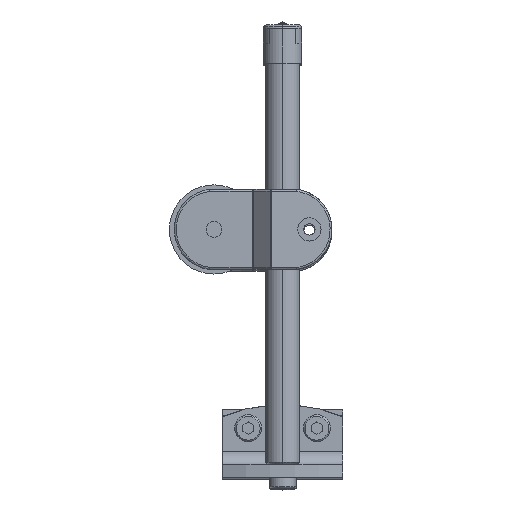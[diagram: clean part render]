
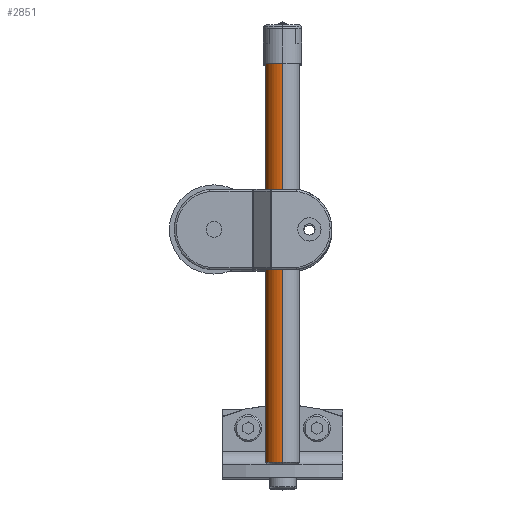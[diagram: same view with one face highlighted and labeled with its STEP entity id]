
A CAD part, top view. The second image highlights one B-rep face of the part: STEP entity #2851.
In plain terms, the highlighted cylindrical face has radius 6.35 mm (diameter 12.7 mm), a partial arc.
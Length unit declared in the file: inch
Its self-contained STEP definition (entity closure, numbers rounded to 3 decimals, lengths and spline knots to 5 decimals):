
#960=CARTESIAN_POINT('',(0.,0.21925,-1.5));
#961=DIRECTION('',(0.,1.,0.));
#962=DIRECTION('',(0.,0.,1.));
#963=AXIS2_PLACEMENT_3D('',#960,#961,#962);
#984=CARTESIAN_POINT('',(0.,6.0368,-1.5));
#985=DIRECTION('',(0.,-1.,0.));
#986=DIRECTION('',(0.,0.,-1.));
#987=AXIS2_PLACEMENT_3D('',#984,#985,#986);
#1085=DIRECTION('',(0.,-1.,0.));
#1086=VECTOR('',#1085,5.81755);
#1087=CARTESIAN_POINT('',(0.,6.0368,-1.25));
#1088=LINE('',#1087,#1086);
#1089=DIRECTION('',(0.,1.,0.));
#1090=VECTOR('',#1089,5.81755);
#1091=CARTESIAN_POINT('',(0.,0.21925,-1.75));
#1092=LINE('',#1091,#1090);
#1313=CARTESIAN_POINT('',(0.,0.21925,-1.25));
#1314=VERTEX_POINT('',#1313);
#1315=CARTESIAN_POINT('',(0.,0.21925,-1.75));
#1316=VERTEX_POINT('',#1315);
#1317=CARTESIAN_POINT('',(0.,6.0368,-1.25));
#1318=CARTESIAN_POINT('',(0.,6.0368,-1.75));
#1319=VERTEX_POINT('',#1317);
#1320=VERTEX_POINT('',#1318);
#2837=CARTESIAN_POINT('',(0.,3.378,-1.5));
#2838=DIRECTION('',(0.,-1.,0.));
#2839=DIRECTION('',(0.,0.,-1.));
#2840=AXIS2_PLACEMENT_3D('',#2837,#2838,#2839);
#2841=CYLINDRICAL_SURFACE('',#2840,0.25);
#2843=ORIENTED_EDGE('',*,*,#2842,.F.);
#2845=ORIENTED_EDGE('',*,*,#2844,.F.);
#2846=ORIENTED_EDGE('',*,*,#2831,.F.);
#2848=ORIENTED_EDGE('',*,*,#2847,.F.);
#2849=EDGE_LOOP('',(#2843,#2845,#2846,#2848));
#2850=FACE_OUTER_BOUND('',#2849,.F.);
#964=CIRCLE('',#963,0.25);
#988=CIRCLE('',#987,0.25);
#2831=EDGE_CURVE('',#1314,#1316,#964,.T.);
#2842=EDGE_CURVE('',#1320,#1319,#988,.T.);
#2844=EDGE_CURVE('',#1316,#1320,#1092,.T.);
#2847=EDGE_CURVE('',#1319,#1314,#1088,.T.);
#2851=ADVANCED_FACE('',(#2850),#2841,.T.);
